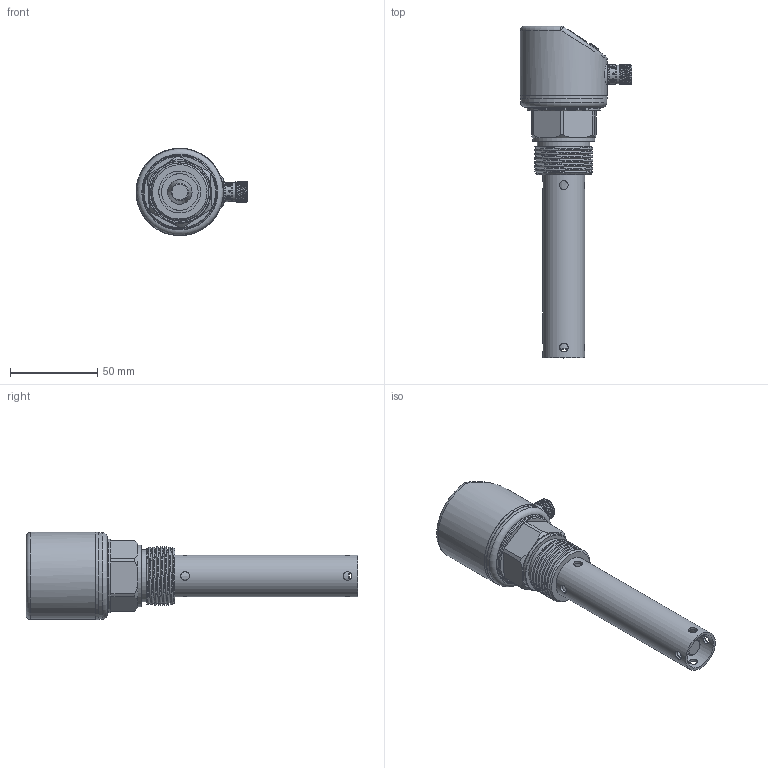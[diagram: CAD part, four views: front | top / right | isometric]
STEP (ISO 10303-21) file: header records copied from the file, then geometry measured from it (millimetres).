
FILE_DESCRIPTION (( 'STEP AP214' ), '1' );
FILE_NAME ('G1数显电容-100（同轴）.STEP', '2025-03-11T06:26:47', ( '' ), ( '' ), 'SwSTEP 2.0', 'SolidWorks 2020', '' );
FILE_SCHEMA (( 'AUTOMOTIVE_DESIGN' ));
Length unit declared in the file: millimetre
Products named in the file (9): G1数显电容-100（同轴）; 抻芛ㄗ蟀哿講ㄘ; PVC躇猾菜; 偌瑩簽; 肮粣奪; 揤薯珆尨欶; 滅阨諉芛褲极1; 揤薯奻裔; G1̽ͷ
Assembly tree (10 placements, depth 2):
  G1数显电容-100（同轴）
    揤薯奻裔
    揤薯珆尨欶
    滅阨諉芛褲极1
    偌瑩簽  x3
    PVC躇猾菜
    抻芛ㄗ蟀哿講ㄘ
    肮粣奪
    G1̽ͷ
Bounding box: 64 x 190.1 x 50 mm (x, y, z)
Volume: 67591 mm3; surface area: 52433.8 mm2
Topology: 10 solids, 10 shells, 321 faces, 759 edges, 491 vertices
Faces by surface type: plane 129, cylinder 118, cone 48, bspline 11, torus 11, sphere 4
Full cylindrical faces by diameter (mm): 1 x4, 1.2 x3, 1.8 x1, 2 x3, 2.5 x6, 2.8 x1, 4.3 x3, 4.5 x6, 5 x8, 6 x1, 7.2 x1, 8 x1, 8.5 x1, 9.75 x1, 10 x1, 10.49 x1, 10.5 x1, 10.8 x1, 10.9 x1, 11 x2, 12 x1, 21 x2, 24 x1, 30 x1, 35 x1, 35.5 x1, 42 x1, 43.9 x1, 45.4 x1, 45.6 x2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
Entity records: 13635 total; most frequent: CARTESIAN_POINT 6743, DIRECTION 1341, ORIENTED_EDGE 1134, EDGE_CURVE 567, AXIS2_PLACEMENT_3D 545, EDGE_LOOP 480, VERTEX_POINT 421, FACE_OUTER_BOUND 362
